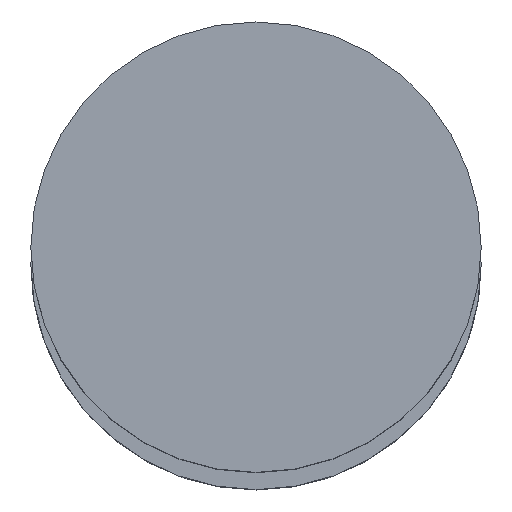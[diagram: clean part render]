
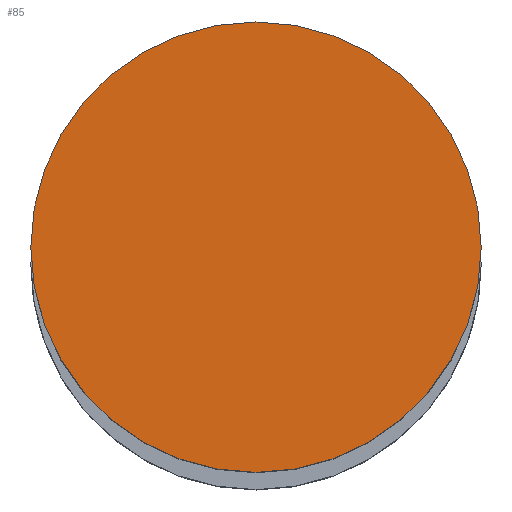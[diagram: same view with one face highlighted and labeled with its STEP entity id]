
A CAD part, top view. The second image highlights one B-rep face of the part: STEP entity #85.
In plain terms, the highlighted planar face has unit normal (0, 0, 1).
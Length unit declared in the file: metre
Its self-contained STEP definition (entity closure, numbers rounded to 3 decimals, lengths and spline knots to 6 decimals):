
#85=ADVANCED_FACE('56:4857',(#165),#166,.F.);
#165=FACE_OUTER_BOUND('',#244,.T.);
#166=PLANE('',#245);
#244=EDGE_LOOP('',(#390,#391));
#245=AXIS2_PLACEMENT_3D('',#392,#393,#394);
#390=ORIENTED_EDGE('',*,*,#433,.F.);
#391=ORIENTED_EDGE('',*,*,#478,.F.);
#392=CARTESIAN_POINT('',(-0.000092,0.000095,3.414));
#393=DIRECTION('',(0.0,0.0,-1.0));
#394=DIRECTION('',(1.0,0.0,0.0));
#433=EDGE_CURVE('27:1418',#505,#501,#507,.T.);
#478=EDGE_CURVE('',#501,#505,#572,.T.);
#501=VERTEX_POINT('',#607);
#505=VERTEX_POINT('',#612);
#507=CIRCLE('',#615,0.0155);
#572=CIRCLE('',#694,0.0155);
#607=CARTESIAN_POINT('',(0.015408,0.000095,3.414));
#612=CARTESIAN_POINT('',(-0.015592,0.000095,3.414));
#615=AXIS2_PLACEMENT_3D('',#736,#737,#738);
#694=AXIS2_PLACEMENT_3D('',#801,#802,#803);
#736=CARTESIAN_POINT('',(-0.000092,0.000095,3.414));
#737=DIRECTION('',(0.0,0.0,-1.0));
#738=DIRECTION('',(1.0,0.0,0.0));
#801=CARTESIAN_POINT('',(-0.000092,0.000095,3.414));
#802=DIRECTION('',(0.0,0.0,-1.0));
#803=DIRECTION('',(1.0,0.0,0.0));
